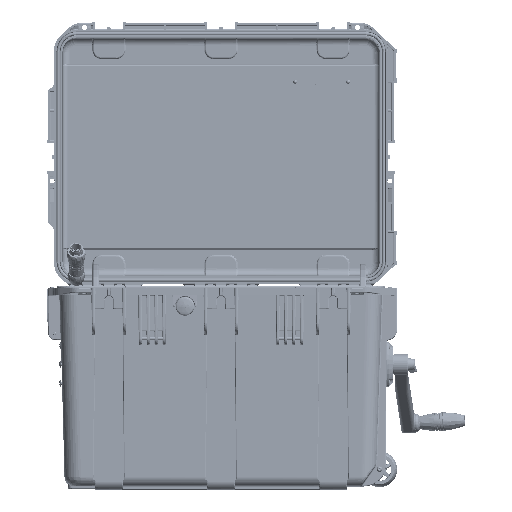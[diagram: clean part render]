
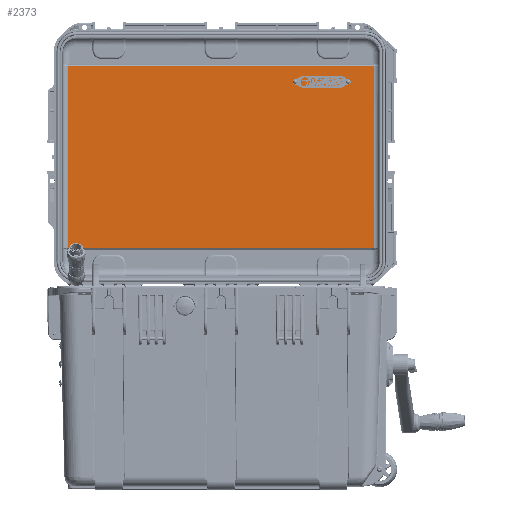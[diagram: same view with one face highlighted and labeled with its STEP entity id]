
A CAD part, top view. The second image highlights one B-rep face of the part: STEP entity #2373.
In plain terms, the highlighted planar face has unit normal (0, 0, 1).
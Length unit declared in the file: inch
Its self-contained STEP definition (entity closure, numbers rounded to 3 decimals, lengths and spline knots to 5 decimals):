
#2373 = ADVANCED_FACE ( 'NONE', ( #888906 ), #733760, .T. ) ;
#49067 = CARTESIAN_POINT ( 'NONE',  ( -11.62855, 3.13147, -12.00918 ) ) ;
#49236 = EDGE_CURVE ( 'NONE', #101374, #345704, #801954, .T. ) ;
#51706 = LINE ( 'NONE', #126997, #449973 ) ;
#53556 = CARTESIAN_POINT ( 'NONE',  ( 11.62855, 16.88689, -12.00918 ) ) ;
#101374 = VERTEX_POINT ( 'NONE', #322680 ) ;
#104306 = B_SPLINE_CURVE_WITH_KNOTS ( 'NONE', 3,
 ( #915323, #618870, #468228, #760109 ),
 .UNSPECIFIED., .F., .F.,
 ( 4, 4 ),
 ( 0., 0.0015 ),
 .UNSPECIFIED. ) ;
#126997 = CARTESIAN_POINT ( 'NONE',  ( -11.62855, 17.00918, -12.00918 ) ) ;
#157131 = DIRECTION ( 'NONE',  ( 1., 0., 0. ) ) ;
#187988 = ORIENTED_EDGE ( 'NONE', *, *, #365822, .T. ) ;
#190141 = CARTESIAN_POINT ( 'NONE',  ( 11.5892, 16.88595, -12.00918 ) ) ;
#192475 = CARTESIAN_POINT ( 'NONE',  ( 11.56952, 3.13241, -12.00918 ) ) ;
#215729 = ORIENTED_EDGE ( 'NONE', *, *, #426857, .F. ) ;
#221718 = CARTESIAN_POINT ( 'NONE',  ( 11.62855, 17.00918, -12.00918 ) ) ;
#256202 = CARTESIAN_POINT ( 'NONE',  ( 11.62855, 3.13147, -12.00918 ) ) ;
#268089 = DIRECTION ( 'NONE',  ( 0., -1., 0. ) ) ;
#281467 = CARTESIAN_POINT ( 'NONE',  ( 11.5892, 3.13241, -12.00918 ) ) ;
#322680 = CARTESIAN_POINT ( 'NONE',  ( -11.56952, 3.13241, -12.00918 ) ) ;
#345704 = VERTEX_POINT ( 'NONE', #749137 ) ;
#348070 = ORIENTED_EDGE ( 'NONE', *, *, #848104, .T. ) ;
#365822 = EDGE_CURVE ( 'NONE', #474047, #885091, #690174, .T. ) ;
#385994 = EDGE_CURVE ( 'NONE', #885091, #683860, #491068, .T. ) ;
#426857 = EDGE_CURVE ( 'NONE', #591657, #494585, #504169, .T. ) ;
#431293 = CARTESIAN_POINT ( 'NONE',  ( -11.62855, 16.88689, -12.00918 ) ) ;
#442774 = DIRECTION ( 'NONE',  ( 0., -1., 0. ) ) ;
#444888 = VECTOR ( 'NONE', #157131, 39.37008 ) ;
#446699 = ORIENTED_EDGE ( 'NONE', *, *, #806596, .T. ) ;
#449973 = VECTOR ( 'NONE', #268089, 39.37008 ) ;
#468228 = CARTESIAN_POINT ( 'NONE',  ( -11.5892, 3.13241, -12.00918 ) ) ;
#474047 = VERTEX_POINT ( 'NONE', #531776 ) ;
#483156 = VERTEX_POINT ( 'NONE', #49067 ) ;
#491068 = B_SPLINE_CURVE_WITH_KNOTS ( 'NONE', 3,
 ( #742354, #535036, #671858, #751663 ),
 .UNSPECIFIED., .F., .F.,
 ( 4, 4 ),
 ( 0., 0.0015 ),
 .UNSPECIFIED. ) ;
#492000 = CARTESIAN_POINT ( 'NONE',  ( -11.56952, 16.88595, -12.00918 ) ) ;
#494585 = VERTEX_POINT ( 'NONE', #256202 ) ;
#504169 = LINE ( 'NONE', #221718, #753921 ) ;
#521918 = VECTOR ( 'NONE', #906656, 39.37008 ) ;
#525634 = EDGE_CURVE ( 'NONE', #591657, #474047, #931586, .T. ) ;
#527709 = CARTESIAN_POINT ( 'NONE',  ( 11.62855, 16.88689, -12.00918 ) ) ;
#531776 = CARTESIAN_POINT ( 'NONE',  ( 11.56952, 16.88595, -12.00918 ) ) ;
#535036 = CARTESIAN_POINT ( 'NONE',  ( -11.5892, 16.88595, -12.00918 ) ) ;
#557039 = CARTESIAN_POINT ( 'NONE',  ( 11.56952, 16.88595, -12.00918 ) ) ;
#568608 = CARTESIAN_POINT ( 'NONE',  ( 11.60888, 3.1321, -12.00918 ) ) ;
#590092 = CARTESIAN_POINT ( 'NONE',  ( -11.56952, 3.13241, -12.00918 ) ) ;
#591657 = VERTEX_POINT ( 'NONE', #527709 ) ;
#618870 = CARTESIAN_POINT ( 'NONE',  ( -11.60888, 3.1321, -12.00918 ) ) ;
#658504 = DIRECTION ( 'NONE',  ( 0., 0., 1. ) ) ;
#671131 = EDGE_CURVE ( 'NONE', #345704, #494585, #712802, .T. ) ;
#671858 = CARTESIAN_POINT ( 'NONE',  ( -11.60888, 16.88627, -12.00918 ) ) ;
#683860 = VERTEX_POINT ( 'NONE', #431293 ) ;
#688460 = CARTESIAN_POINT ( 'NONE',  ( -11.56952, 16.88595, -12.00918 ) ) ;
#690174 = LINE ( 'NONE', #492000, #521918 ) ;
#696161 = CARTESIAN_POINT ( 'NONE',  ( 11.62855, 3.13147, -12.00918 ) ) ;
#712802 = B_SPLINE_CURVE_WITH_KNOTS ( 'NONE', 3,
 ( #192475, #281467, #568608, #696161 ),
 .UNSPECIFIED., .F., .F.,
 ( 4, 4 ),
 ( 0., 0.0015 ),
 .UNSPECIFIED. ) ;
#733760 = PLANE ( 'NONE',  #892441 ) ;
#742354 = CARTESIAN_POINT ( 'NONE',  ( -11.56952, 16.88595, -12.00918 ) ) ;
#749137 = CARTESIAN_POINT ( 'NONE',  ( 11.56952, 3.13241, -12.00918 ) ) ;
#751663 = CARTESIAN_POINT ( 'NONE',  ( -11.62855, 16.88689, -12.00918 ) ) ;
#753921 = VECTOR ( 'NONE', #442774, 39.37008 ) ;
#760109 = CARTESIAN_POINT ( 'NONE',  ( -11.56952, 3.13241, -12.00918 ) ) ;
#766603 = ORIENTED_EDGE ( 'NONE', *, *, #49236, .T. ) ;
#801954 = LINE ( 'NONE', #590092, #444888 ) ;
#806596 = EDGE_CURVE ( 'NONE', #683860, #483156, #51706, .T. ) ;
#822915 = DIRECTION ( 'NONE',  ( 0., -1., 0. ) ) ;
#831031 = ORIENTED_EDGE ( 'NONE', *, *, #525634, .T. ) ;
#834963 = CARTESIAN_POINT ( 'NONE',  ( 11.60888, 16.88627, -12.00918 ) ) ;
#848104 = EDGE_CURVE ( 'NONE', #483156, #101374, #104306, .T. ) ;
#871743 = ORIENTED_EDGE ( 'NONE', *, *, #671131, .T. ) ;
#879687 = CARTESIAN_POINT ( 'NONE',  ( -11.56952, 16.83607, -12.00918 ) ) ;
#885091 = VERTEX_POINT ( 'NONE', #688460 ) ;
#888906 = FACE_OUTER_BOUND ( 'NONE', #928049, .T. ) ;
#892441 = AXIS2_PLACEMENT_3D ( 'NONE', #879687, #658504, #822915 ) ;
#906656 = DIRECTION ( 'NONE',  ( -1., 0., 0. ) ) ;
#915323 = CARTESIAN_POINT ( 'NONE',  ( -11.62855, 3.13147, -12.00918 ) ) ;
#926349 = ORIENTED_EDGE ( 'NONE', *, *, #385994, .T. ) ;
#928049 = EDGE_LOOP ( 'NONE', ( #446699, #348070, #766603, #871743, #215729, #831031, #187988, #926349 ) ) ;
#931586 = B_SPLINE_CURVE_WITH_KNOTS ( 'NONE', 3,
 ( #53556, #834963, #190141, #557039 ),
 .UNSPECIFIED., .F., .F.,
 ( 4, 4 ),
 ( 0., 0.0015 ),
 .UNSPECIFIED. ) ;
